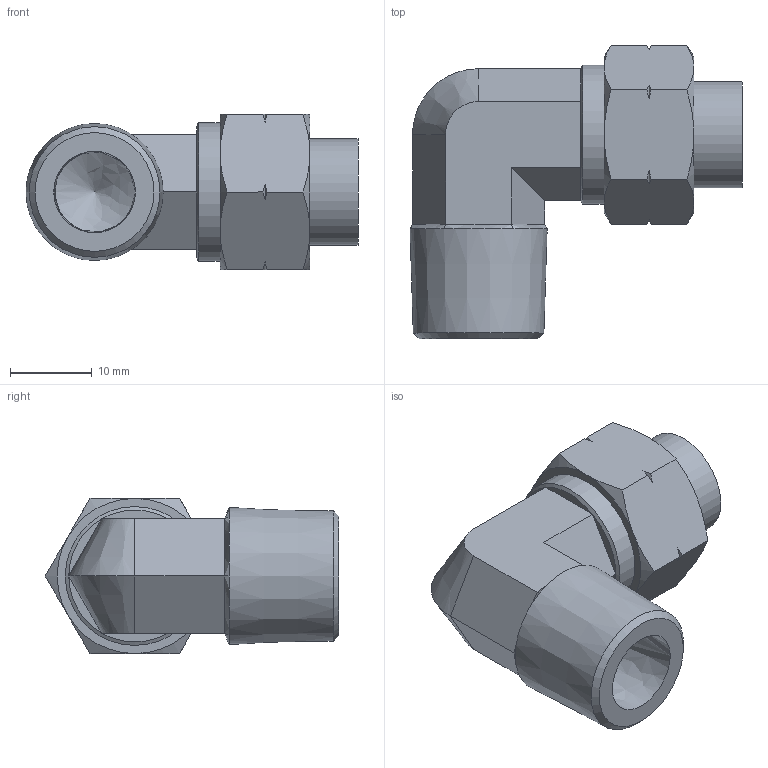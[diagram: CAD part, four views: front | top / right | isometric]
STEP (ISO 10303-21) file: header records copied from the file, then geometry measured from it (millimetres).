
FILE_DESCRIPTION((''),'2;1');
FILE_NAME('D:\INVENTOR\[New Inventor]\CDC Products 3D Ass''y\Two-Touch Fittings\Metric\CL\CL12-9--03.stp','2009-02-23T16:33:11',('Microsoft'),(''),'Autodesk Inventor 2008','Autodesk Inventor 2008','');
FILE_SCHEMA(('AUTOMOTIVE_DESIGN { 1 0 10303 214 1 1 1 1 }'));
Length unit declared in the file: millimetre
Products named in the file (1): CL12-9--03
Bounding box: 40.67 x 35.97 x 19 mm (x, y, z)
Volume: 6942.3 mm3; surface area: 5874.2 mm2
Topology: 1 solids, 1 shells, 71 faces, 159 edges, 93 vertices
Faces by surface type: plane 28, cone 27, bspline 10, cylinder 5, torus 1
Full cylindrical faces by diameter (mm): 7.5 x1, 8.7 x1, 12.2 x1, 13 x1, 17 x1
Entity records: 2116 total; most frequent: CARTESIAN_POINT 750, ORIENTED_EDGE 288, DIRECTION 256, EDGE_CURVE 144, AXIS2_PLACEMENT_3D 107, VERTEX_POINT 89, EDGE_LOOP 87, FACE_OUTER_BOUND 71
